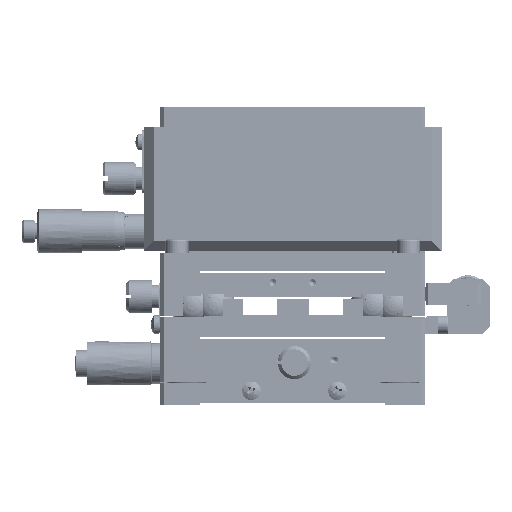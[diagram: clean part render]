
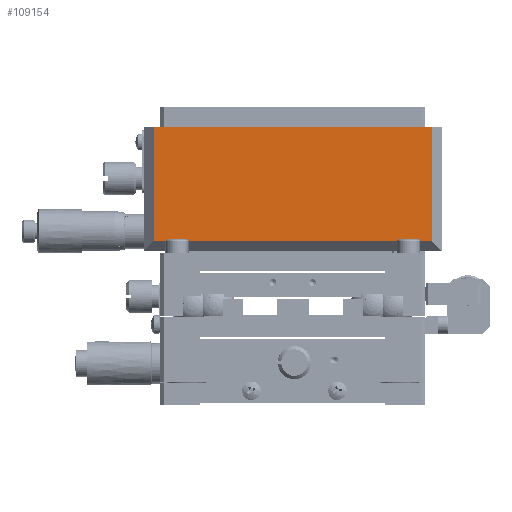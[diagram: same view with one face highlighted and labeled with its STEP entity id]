
A CAD part, front view. The second image highlights one B-rep face of the part: STEP entity #109154.
In plain terms, the highlighted planar face has unit normal (0, -1, 0).
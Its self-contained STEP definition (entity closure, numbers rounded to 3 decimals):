
#3590 = VERTEX_POINT ( 'NONE', #88391 ) ;
#5216 = VECTOR ( 'NONE', #31066, 1000. ) ;
#15343 = VECTOR ( 'NONE', #32491, 1000. ) ;
#26779 = CARTESIAN_POINT ( 'NONE',  ( 0., -28., 25.25 ) ) ;
#31066 = DIRECTION ( 'NONE',  ( 1., 0., 0. ) ) ;
#32491 = DIRECTION ( 'NONE',  ( 0., 0., 1. ) ) ;
#41739 = VECTOR ( 'NONE', #100410, 1000. ) ;
#43406 = LINE ( 'NONE', #125239, #15343 ) ;
#56781 = EDGE_CURVE ( 'NONE', #3590, #90678, #43406, .T. ) ;
#60427 = EDGE_LOOP ( 'NONE', ( #148583, #66614, #194939, #215082 ) ) ;
#66614 = ORIENTED_EDGE ( 'NONE', *, *, #209363, .T. ) ;
#79619 = CARTESIAN_POINT ( 'NONE',  ( -42., -28., 44. ) ) ;
#88391 = CARTESIAN_POINT ( 'NONE',  ( 42., -28., 9.5 ) ) ;
#90678 = VERTEX_POINT ( 'NONE', #252584 ) ;
#100410 = DIRECTION ( 'NONE',  ( 1., 0., 0. ) ) ;
#101747 = CARTESIAN_POINT ( 'NONE',  ( 0., -28., 9.5 ) ) ;
#107419 = VERTEX_POINT ( 'NONE', #129912 ) ;
#109154 = ADVANCED_FACE ( 'NONE', ( #254634 ), #150184, .T. ) ;
#125239 = CARTESIAN_POINT ( 'NONE',  ( 42., -28., 25.25 ) ) ;
#126890 = DIRECTION ( 'NONE',  ( 0., 0., -1. ) ) ;
#127471 = DIRECTION ( 'NONE',  ( 0., -1., 0. ) ) ;
#129912 = CARTESIAN_POINT ( 'NONE',  ( -42., -28., 9.5 ) ) ;
#142748 = EDGE_CURVE ( 'NONE', #223102, #107419, #247465, .T. ) ;
#148583 = ORIENTED_EDGE ( 'NONE', *, *, #142748, .T. ) ;
#150184 = PLANE ( 'NONE',  #231488 ) ;
#165774 = CARTESIAN_POINT ( 'NONE',  ( -42., -28., 25.25 ) ) ;
#173244 = LINE ( 'NONE', #178561, #5216 ) ;
#178561 = CARTESIAN_POINT ( 'NONE',  ( 0., -28., 44. ) ) ;
#191352 = VECTOR ( 'NONE', #126890, 1000. ) ;
#194939 = ORIENTED_EDGE ( 'NONE', *, *, #56781, .T. ) ;
#198125 = EDGE_CURVE ( 'NONE', #223102, #90678, #173244, .T. ) ;
#209363 = EDGE_CURVE ( 'NONE', #107419, #3590, #247688, .T. ) ;
#215082 = ORIENTED_EDGE ( 'NONE', *, *, #198125, .F. ) ;
#223102 = VERTEX_POINT ( 'NONE', #79619 ) ;
#231488 = AXIS2_PLACEMENT_3D ( 'NONE', #26779, #127471, #250660 ) ;
#247465 = LINE ( 'NONE', #165774, #191352 ) ;
#247688 = LINE ( 'NONE', #101747, #41739 ) ;
#250660 = DIRECTION ( 'NONE',  ( 0., 0., 1. ) ) ;
#252584 = CARTESIAN_POINT ( 'NONE',  ( 42., -28., 44. ) ) ;
#254634 = FACE_OUTER_BOUND ( 'NONE', #60427, .T. ) ;
